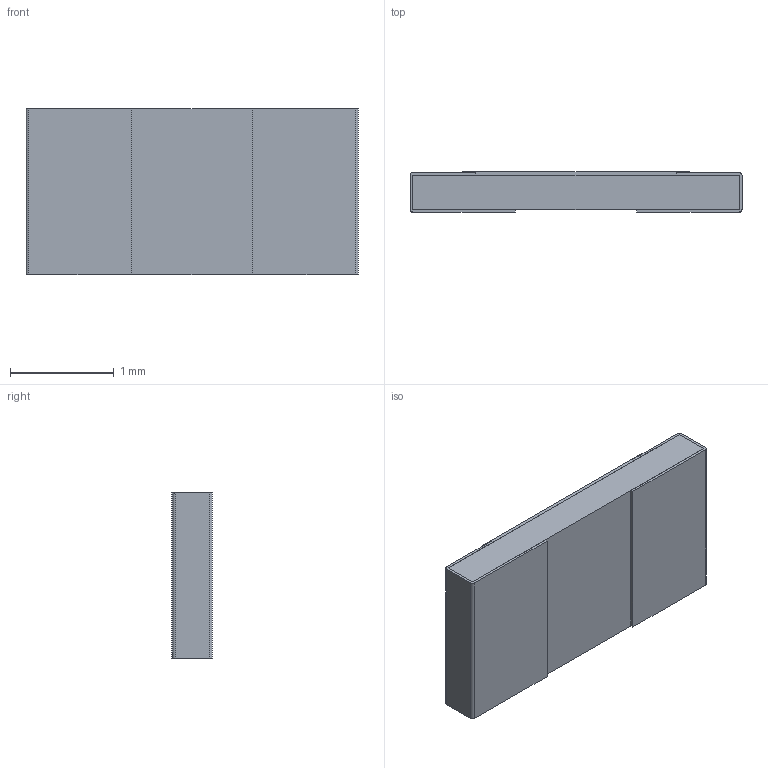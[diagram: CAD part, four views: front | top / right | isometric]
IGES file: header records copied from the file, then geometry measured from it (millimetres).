
Global section: file name: PCNM1206; native system: Autodesk Inventor LT ; preprocessor: unknown; author: Neil; date: 20191020.232936; units: inch
Bounding box: 3.2 x 0.39 x 1.6 mm (x, y, z)
Volume: 1.9 mm3; surface area: 38 mm2
Topology: 6 solids, 6 shells, 82 faces, 210 edges, 140 vertices
Faces by surface type: bspline 82
